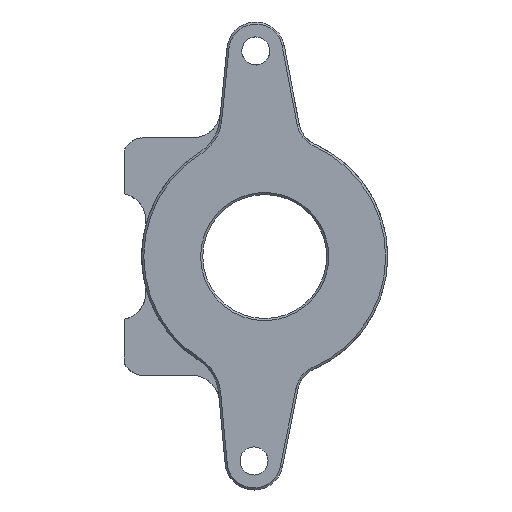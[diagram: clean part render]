
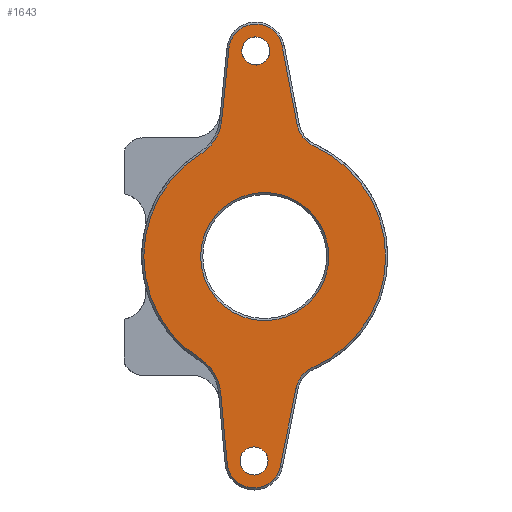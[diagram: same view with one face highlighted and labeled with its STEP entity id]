
A CAD part, left-side view. The second image highlights one B-rep face of the part: STEP entity #1643.
In plain terms, the highlighted planar face has unit normal (-1, 0, 0).
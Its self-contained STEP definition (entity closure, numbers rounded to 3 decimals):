
#138=LINE('',#2560,#196);
#139=LINE('',#2564,#197);
#140=LINE('',#2572,#198);
#141=LINE('',#2576,#199);
#196=VECTOR('',#2116,1000.);
#197=VECTOR('',#2119,1000.);
#198=VECTOR('',#2126,1000.);
#199=VECTOR('',#2129,1000.);
#461=ORIENTED_EDGE('',*,*,#661,.T.);
#462=ORIENTED_EDGE('',*,*,#662,.T.);
#463=ORIENTED_EDGE('',*,*,#663,.T.);
#464=ORIENTED_EDGE('',*,*,#664,.T.);
#465=ORIENTED_EDGE('',*,*,#665,.T.);
#466=ORIENTED_EDGE('',*,*,#666,.T.);
#467=ORIENTED_EDGE('',*,*,#667,.T.);
#468=ORIENTED_EDGE('',*,*,#668,.T.);
#469=ORIENTED_EDGE('',*,*,#669,.T.);
#470=ORIENTED_EDGE('',*,*,#670,.T.);
#471=ORIENTED_EDGE('',*,*,#671,.T.);
#472=ORIENTED_EDGE('',*,*,#672,.T.);
#473=ORIENTED_EDGE('',*,*,#673,.T.);
#474=ORIENTED_EDGE('',*,*,#643,.F.);
#475=ORIENTED_EDGE('',*,*,#635,.F.);
#635=EDGE_CURVE('',#769,#769,#839,.T.);
#643=EDGE_CURVE('',#772,#772,#845,.T.);
#661=EDGE_CURVE('',#783,#783,#861,.F.);
#662=EDGE_CURVE('',#784,#785,#862,.F.);
#663=EDGE_CURVE('',#785,#786,#863,.T.);
#664=EDGE_CURVE('',#786,#787,#864,.F.);
#665=EDGE_CURVE('',#787,#788,#138,.T.);
#666=EDGE_CURVE('',#788,#789,#865,.T.);
#667=EDGE_CURVE('',#789,#790,#139,.T.);
#668=EDGE_CURVE('',#790,#791,#866,.F.);
#669=EDGE_CURVE('',#791,#792,#867,.T.);
#670=EDGE_CURVE('',#792,#793,#868,.F.);
#671=EDGE_CURVE('',#793,#794,#140,.T.);
#672=EDGE_CURVE('',#794,#795,#869,.T.);
#673=EDGE_CURVE('',#795,#784,#141,.T.);
#769=VERTEX_POINT('',#2490);
#772=VERTEX_POINT('',#2505);
#783=VERTEX_POINT('',#2552);
#784=VERTEX_POINT('',#2554);
#785=VERTEX_POINT('',#2555);
#786=VERTEX_POINT('',#2557);
#787=VERTEX_POINT('',#2559);
#788=VERTEX_POINT('',#2561);
#789=VERTEX_POINT('',#2563);
#790=VERTEX_POINT('',#2565);
#791=VERTEX_POINT('',#2567);
#792=VERTEX_POINT('',#2569);
#793=VERTEX_POINT('',#2571);
#794=VERTEX_POINT('',#2573);
#795=VERTEX_POINT('',#2575);
#839=CIRCLE('',#1745,3.378);
#845=CIRCLE('',#1755,3.378);
#861=CIRCLE('',#1789,15.431);
#862=CIRCLE('',#1790,10.668);
#863=CIRCLE('',#1791,29.108);
#864=CIRCLE('',#1792,10.668);
#865=CIRCLE('',#1793,6.477);
#866=CIRCLE('',#1794,7.112);
#867=CIRCLE('',#1795,29.108);
#868=CIRCLE('',#1796,7.112);
#869=CIRCLE('',#1797,6.477);
#946=EDGE_LOOP('',(#461));
#947=EDGE_LOOP('',(#462,#463,#464,#465,#466,#467,#468,#469,#470,#471,#472,
#473));
#948=EDGE_LOOP('',(#474));
#949=EDGE_LOOP('',(#475));
#1044=FACE_BOUND('',#946,.T.);
#1045=FACE_BOUND('',#947,.T.);
#1046=FACE_BOUND('',#948,.T.);
#1047=FACE_BOUND('',#949,.T.);
#1082=PLANE('',#1788);
#1643=ADVANCED_FACE('',(#1044,#1045,#1046,#1047),#1082,.T.);
#1745=AXIS2_PLACEMENT_3D('',#2489,#2016,#2017);
#1755=AXIS2_PLACEMENT_3D('',#2504,#2038,#2039);
#1788=AXIS2_PLACEMENT_3D('',#2550,#2106,#2107);
#1789=AXIS2_PLACEMENT_3D('',#2551,#2108,#2109);
#1790=AXIS2_PLACEMENT_3D('',#2553,#2110,#2111);
#1791=AXIS2_PLACEMENT_3D('',#2556,#2112,#2113);
#1792=AXIS2_PLACEMENT_3D('',#2558,#2114,#2115);
#1793=AXIS2_PLACEMENT_3D('',#2562,#2117,#2118);
#1794=AXIS2_PLACEMENT_3D('',#2566,#2120,#2121);
#1795=AXIS2_PLACEMENT_3D('',#2568,#2122,#2123);
#1796=AXIS2_PLACEMENT_3D('',#2570,#2124,#2125);
#1797=AXIS2_PLACEMENT_3D('',#2574,#2127,#2128);
#2016=DIRECTION('',(-1.,0.,0.));
#2017=DIRECTION('',(0.,0.092,0.996));
#2038=DIRECTION('',(-1.,0.,0.));
#2039=DIRECTION('',(0.,0.092,0.996));
#2106=DIRECTION('',(-1.,0.,0.));
#2107=DIRECTION('',(0.,0.,1.));
#2108=DIRECTION('',(-1.,0.,0.));
#2109=DIRECTION('',(0.,0.,1.));
#2110=DIRECTION('',(-1.,0.,0.));
#2111=DIRECTION('',(0.,0.,1.));
#2112=DIRECTION('',(-1.,0.,0.));
#2113=DIRECTION('',(0.,0.,1.));
#2114=DIRECTION('',(-1.,0.,0.));
#2115=DIRECTION('',(0.,0.,1.));
#2116=DIRECTION('',(0.,-0.092,-0.996));
#2117=DIRECTION('',(-1.,0.,0.));
#2118=DIRECTION('',(0.,0.,1.));
#2119=DIRECTION('',(0.,-0.195,0.981));
#2120=DIRECTION('',(-1.,0.,0.));
#2121=DIRECTION('',(0.,0.,1.));
#2122=DIRECTION('',(-1.,0.,0.));
#2123=DIRECTION('',(0.,0.,1.));
#2124=DIRECTION('',(-1.,0.,0.));
#2125=DIRECTION('',(0.,0.,1.));
#2126=DIRECTION('',(0.,0.187,0.982));
#2127=DIRECTION('',(-1.,0.,0.));
#2128=DIRECTION('',(0.,0.,1.));
#2129=DIRECTION('',(0.,0.1,-0.995));
#2489=CARTESIAN_POINT('',(-1.651,2.579,-49.208));
#2490=CARTESIAN_POINT('',(-1.651,2.888,-45.844));
#2504=CARTESIAN_POINT('',(-1.651,2.16,49.483));
#2505=CARTESIAN_POINT('',(-1.651,2.47,52.847));
#2550=CARTESIAN_POINT('',(-1.651,21.227,-33.639));
#2551=CARTESIAN_POINT('',(-1.651,0.,0.));
#2552=CARTESIAN_POINT('',(-1.651,0.,15.431));
#2553=CARTESIAN_POINT('',(-1.651,20.971,33.799));
#2554=CARTESIAN_POINT('',(-1.651,10.357,32.73));
#2555=CARTESIAN_POINT('',(-1.651,15.347,24.734));
#2556=CARTESIAN_POINT('',(-1.651,0.,0.));
#2557=CARTESIAN_POINT('',(-1.651,15.534,-24.617));
#2558=CARTESIAN_POINT('',(-1.651,21.227,-33.639));
#2559=CARTESIAN_POINT('',(-1.651,10.604,-32.663));
#2560=CARTESIAN_POINT('',(-1.651,9.029,-49.801));
#2561=CARTESIAN_POINT('',(-1.651,9.029,-49.801));
#2562=CARTESIAN_POINT('',(-1.651,2.579,-49.208));
#2563=CARTESIAN_POINT('',(-1.651,-3.774,-50.472));
#2564=CARTESIAN_POINT('',(-1.651,-7.483,-31.822));
#2565=CARTESIAN_POINT('',(-1.651,-7.483,-31.822));
#2566=CARTESIAN_POINT('',(-1.651,-14.459,-33.209));
#2567=CARTESIAN_POINT('',(-1.651,-11.62,-26.689));
#2568=CARTESIAN_POINT('',(-1.651,0.,0.));
#2569=CARTESIAN_POINT('',(-1.651,-11.885,26.572));
#2570=CARTESIAN_POINT('',(-1.651,-14.789,33.064));
#2571=CARTESIAN_POINT('',(-1.651,-7.801,31.737));
#2572=CARTESIAN_POINT('',(-1.651,-4.203,50.691));
#2573=CARTESIAN_POINT('',(-1.651,-4.203,50.691));
#2574=CARTESIAN_POINT('',(-1.651,2.16,49.483));
#2575=CARTESIAN_POINT('',(-1.651,8.605,50.132));
#2576=CARTESIAN_POINT('',(-1.651,10.357,32.73));
